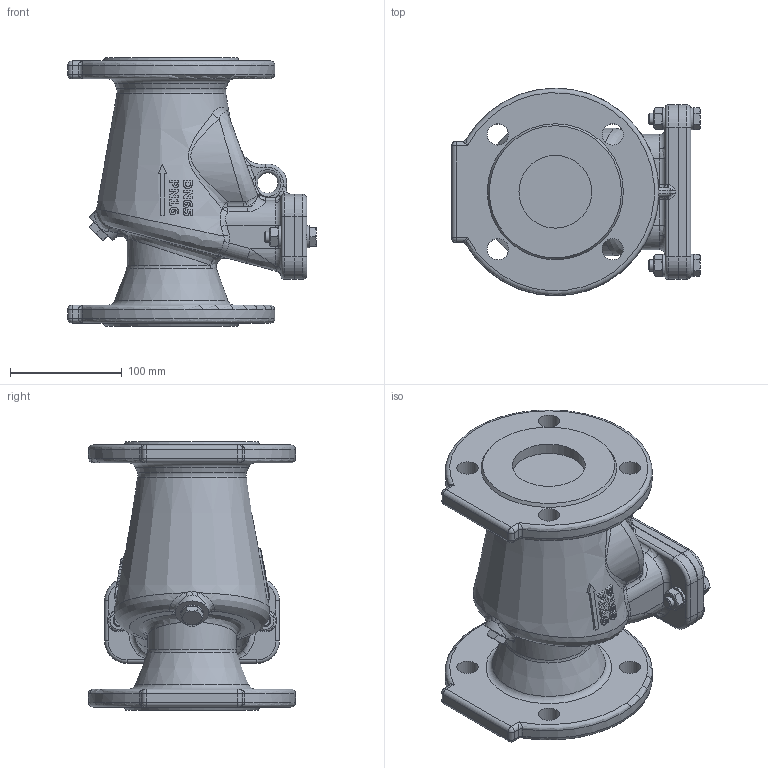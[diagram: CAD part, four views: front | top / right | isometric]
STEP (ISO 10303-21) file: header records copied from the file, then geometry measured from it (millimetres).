
FILE_DESCRIPTION(('STEP AP242'), '1');
FILE_NAME('VAR RETO-STOP 吾疣蝽 觌囡囗 DN 65 PN 16', '2026-06-28T08:25:38', (' '), (' '), 'C3D Converter', 'C3D Toolkit', '');
FILE_SCHEMA(('AP242_MANAGED_MODEL_BASED_3D_ENGINEERING_MIM_LF { 1 0 10303 442 1 1 4 }'));
Length unit declared in the file: millimetre
Products named in the file (1): Admi10D408D9feae
Bounding box: 221.9 x 185 x 240 mm (x, y, z)
Volume: 3409257.7 mm3; surface area: 234323.7 mm2
Topology: 1 solids, 6 shells, 629 faces, 1580 edges, 967 vertices
Faces by surface type: plane 201, extrusion 150, cylinder 105, bspline 66, cone 59, torus 34, sphere 14
Full cylindrical faces by diameter (mm): 10 x7, 10.5 x5, 10.891 x1, 15.6 x3, 18 x2, 19 x8, 20 x5, 65 x2
Entity records: 43704 total; most frequent: CARTESIAN_POINT 25570, ORIENTED_EDGE 2988, DIRECTION 2137, EDGE_CURVE 1494, VERTEX_POINT 965, B_SPLINE_CURVE_WITH_KNOTS 838, AXIS2_PLACEMENT_3D 767, EDGE_LOOP 745
